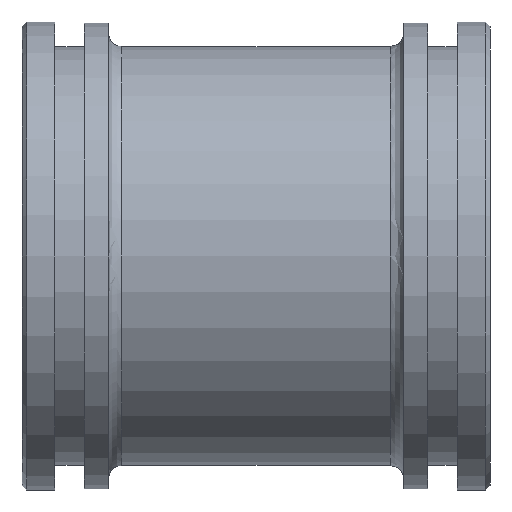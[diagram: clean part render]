
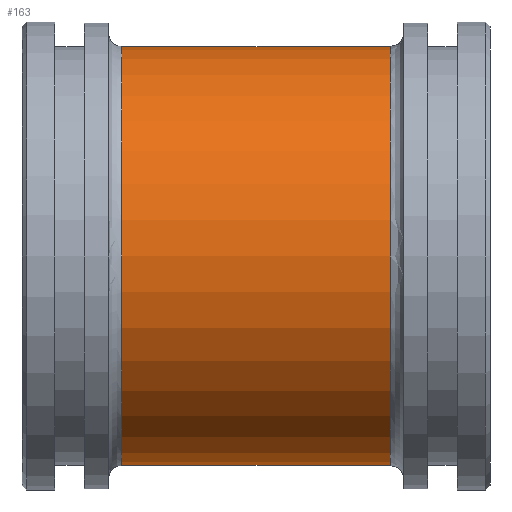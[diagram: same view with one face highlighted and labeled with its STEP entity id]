
A CAD part, front view. The second image highlights one B-rep face of the part: STEP entity #163.
In plain terms, the highlighted cylindrical face has radius 44.75 mm (diameter 89.5 mm), a full revolution.
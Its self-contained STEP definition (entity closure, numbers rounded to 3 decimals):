
#121=CARTESIAN_POINT('',(28.7,44.75,0.0));
#122=VERTEX_POINT('',#121);
#123=CARTESIAN_POINT('',(28.7,0.0,0.0));
#124=DIRECTION('',(1.0,0.0,0.0));
#125=DIRECTION('',(0.0,-1.0,0.0));
#126=AXIS2_PLACEMENT_3D('',#123,#124,#125);
#127=CIRCLE('',#126,44.75);
#128=EDGE_CURVE('',#122,#122,#127,.T.);
#144=CARTESIAN_POINT('',(0.,0.0,0.0));
#145=DIRECTION('',(1.0,0.0,0.0));
#146=DIRECTION('',(0.0,1.0,0.0));
#147=AXIS2_PLACEMENT_3D('',#144,#145,#146);
#148=CYLINDRICAL_SURFACE('',#147,44.75);
#149=CARTESIAN_POINT('',(-28.7,44.75,0.));
#150=VERTEX_POINT('',#149);
#151=CARTESIAN_POINT('',(-28.7,0.0,0.0));
#152=DIRECTION('',(-1.0,0.0,0.0));
#153=DIRECTION('',(0.0,-1.0,0.0));
#154=AXIS2_PLACEMENT_3D('',#151,#152,#153);
#155=CIRCLE('',#154,44.75);
#156=EDGE_CURVE('',#150,#150,#155,.T.);
#157=ORIENTED_EDGE('',*,*,#156,.F.);
#158=EDGE_LOOP('',(#157));
#159=FACE_OUTER_BOUND('',#158,.T.);
#160=ORIENTED_EDGE('',*,*,#128,.F.);
#161=EDGE_LOOP('',(#160));
#162=FACE_BOUND('',#161,.T.);
#163=ADVANCED_FACE('',(#159,#162),#148,.T.);
